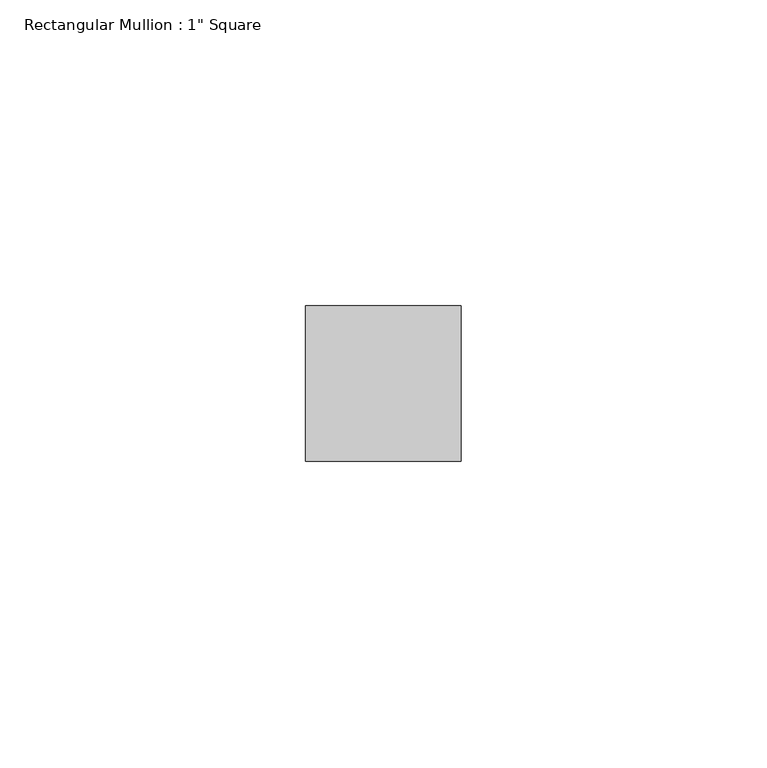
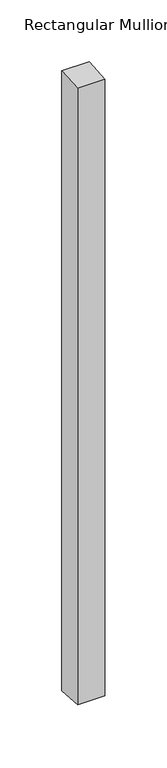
"""IFC4 building model written with IfcOpenShell, lengths in millimetres: member geometry."""

from ifc_helpers import new_model, si_unit, origin, place, context, project, spatial, faceted_brep, source, transform, mapped, element, save


def member_52a3ac57(model_context):
    return source(origin(), model_context, "Body", "Brep", [
        faceted_brep([(-25.4, 12.7, 0.7912404), (0.0, 12.7, 0.7585652), (0.0, 12.7, -610.3585652), (-25.4, 12.7, -610.3912404), (-25.4, -12.7, -0.7258901), (-25.4, -12.7, -608.8741099), (0.0, -12.7, -0.7585652), (0.0, -12.7, -608.8414348)], [[[0, 1, 2, 3]], [[4, 0, 3, 5]], [[6, 4, 5, 7]], [[1, 6, 7, 2]], [[1, 0, 4, 6]], [[2, 7, 5, 3]]]),
    ])


if __name__ == "__main__":
    model = new_model("IFC4")
    model_context = context("Model", 3, world=origin())
    ifc_project = project(units=[si_unit("LENGTHUNIT", "METRE", prefix="MILLI")], contexts=[model_context])
    site = spatial("IfcSite", under=ifc_project)
    building = spatial("IfcBuilding", under=site)
    placement = place(None, origin())
    member_shape = member_52a3ac57(model_context)
    element("IfcMember", 1, ObjectType="Rectangular Mullion : 1\" Square", at=placement, inside=building, context=model_context, shape_type="MappedRepresentation", body=[
        mapped(member_shape, transform((0.0, 0.0, 0.0), x_axis=(1.0, 0.0, 0.0), y_axis=(0.0, 1.0, 0.0), z_axis=(0.0, 0.0, 1.0))),
    ])
    save(model, "model.ifc")
